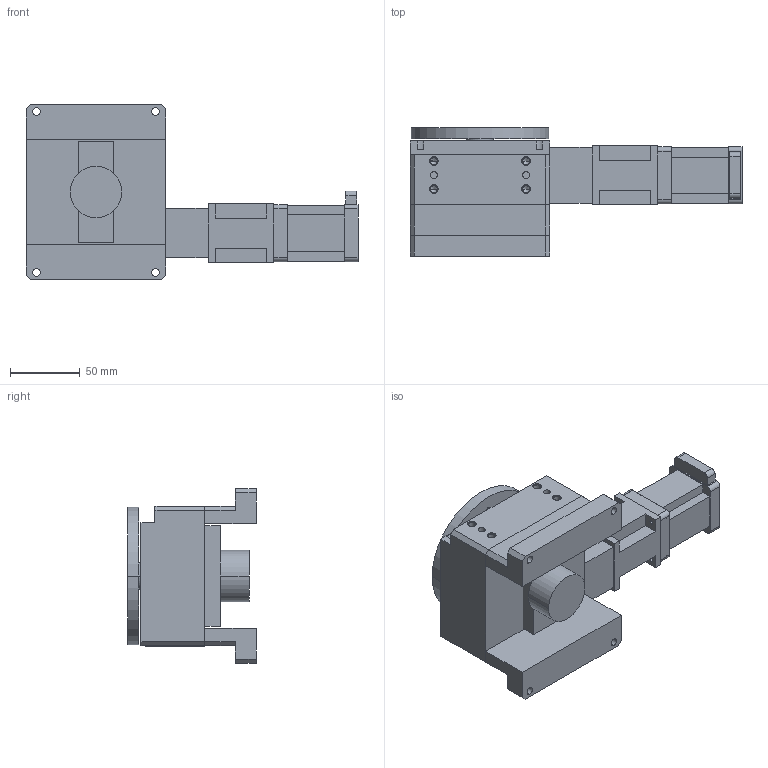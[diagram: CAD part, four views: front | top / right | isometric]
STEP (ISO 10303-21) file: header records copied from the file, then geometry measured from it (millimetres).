
FILE_DESCRIPTION((''),'2;1');
FILE_NAME('R100M6MP1E1_ASM','2009-07-02T',('FK20128'),(''),'PRO/ENGINEER BY PARAMETRIC TECHNOLOGY CORPORATION, 2006200','PRO/ENGINEER BY PARAMETRIC TECHNOLOGY CORPORATION, 2006200','');
FILE_SCHEMA(('CONFIG_CONTROL_DESIGN'));
Length unit declared in the file: millimetre
Products named in the file (8): R100M; R100M-M16; RXXXM-BE163; R100M-ENCODER-BRKT; RXXXM-ENCODER; R100M-ENCODER-STANDOFF; R100M-E1_ASM; R100M6MP1E1_ASM
Assembly tree (8 placements, depth 3):
  R100M6MP1E1_ASM
    R100M
    R100M-M16
    RXXXM-BE163
    R100M-E1_ASM
      R100M-ENCODER-BRKT
      RXXXM-ENCODER
      R100M-ENCODER-STANDOFF  x2
Bounding box: 237.35 x 92.01 x 125 mm (x, y, z)
Volume: 847526.4 mm3; surface area: 140674.1 mm2
Topology: 7 solids, 29 shells, 358 faces, 890 edges, 594 vertices
Faces by surface type: cylinder 182, plane 154, cone 22
Entity records: 10213 total; most frequent: DIRECTION 1910, CARTESIAN_POINT 1710, ORIENTED_EDGE 1536, EDGE_CURVE 808, AXIS2_PLACEMENT_3D 746, VERTEX_POINT 546, EDGE_LOOP 436, VECTOR 418
